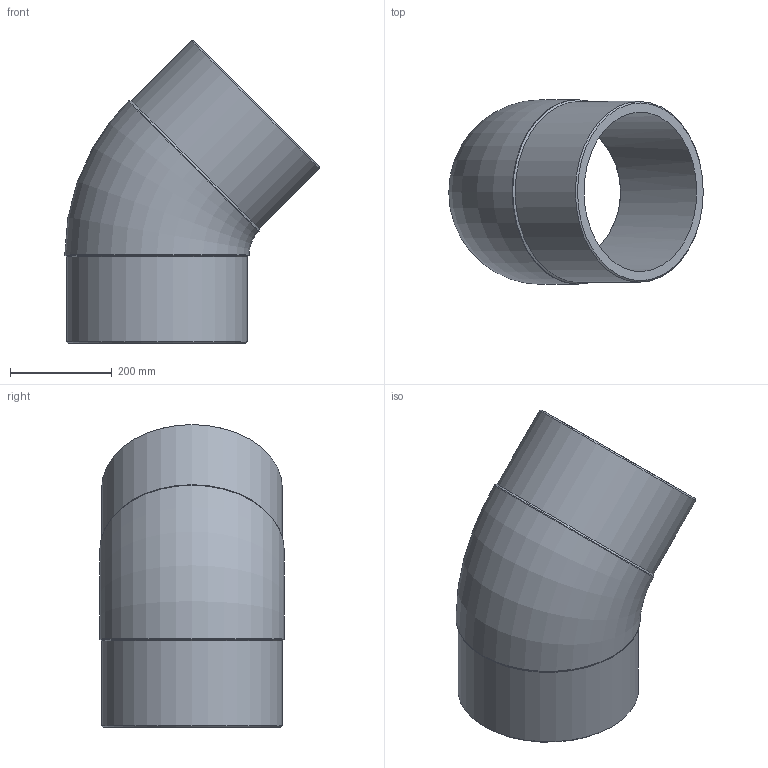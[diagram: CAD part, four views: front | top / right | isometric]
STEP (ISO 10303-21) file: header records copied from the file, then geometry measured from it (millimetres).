
FILE_DESCRIPTION(/* description */ ('Unknown'),/* implementation_level */ '2;1');
FILE_NAME(/* name */ 'G4P355B',/* time_stamp */ '2022-01-21T15:24:28+01:00',/* author */ ('Unknown'),/* organization */ ('Unknown'),/* preprocessor_version */ 'ST-DEVELOPER v18.1',/* originating_system */ 'Solid Edge',/* authorisation */ 'Unknown');
FILE_SCHEMA (('AUTOMOTIVE_DESIGN {1 0 10303 214 3 1 1}'));
Length unit declared in the file: millimetre
Products named in the file (1): G4P355B
Bounding box: 499.55 x 362 x 594.55 mm (x, y, z)
Volume: 12862553.1 mm3; surface area: 1184494.5 mm2
Topology: 1 solids, 1 shells, 14 faces, 34 edges, 22 vertices
Faces by surface type: cylinder 6, cone 4, plane 2, torus 2
Full cylindrical faces by diameter (mm): 312.8 x2, 355 x2, 362 x2
Entity records: 370 total; most frequent: CARTESIAN_POINT 70, DIRECTION 60, ORIENTED_EDGE 38, AXIS2_PLACEMENT_3D 30, EDGE_LOOP 27, FACE_BOUND 27, EDGE_CURVE 19, VERTEX_POINT 18
